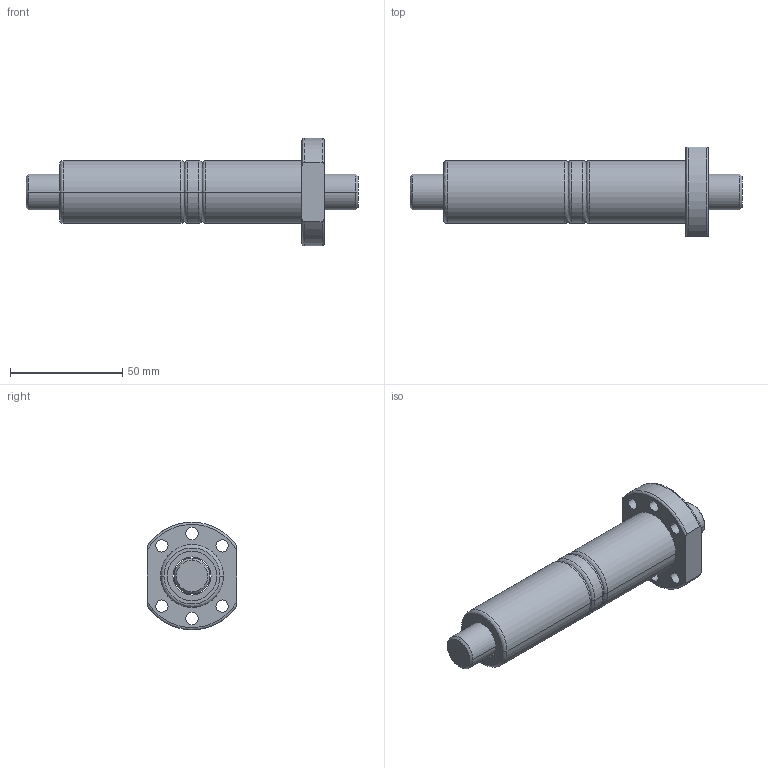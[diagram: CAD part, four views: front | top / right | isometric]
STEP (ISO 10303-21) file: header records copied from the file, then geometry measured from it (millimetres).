
FILE_DESCRIPTION (( 'STEP AP203' ), '1' );
FILE_NAME ('DFU01610.STEP', '2013-01-21T07:20:30', ( 'Halezer' ), ( '' ), 'SwSTEP 2.0', 'SolidWorks 2010', '' );
FILE_SCHEMA (( 'CONFIG_CONTROL_DESIGN' ));
Length unit declared in the file: millimetre
Products named in the file (1): DFU01610
Bounding box: 148 x 40 x 48 mm (x, y, z)
Volume: 84412.1 mm3; surface area: 31727.5 mm2
Topology: 6 solids, 6 shells, 75 faces, 168 edges, 108 vertices
Faces by surface type: cylinder 40, plane 17, bspline 14, cone 4
Entity records: 2595 total; most frequent: CARTESIAN_POINT 826, DIRECTION 366, ORIENTED_EDGE 336, EDGE_CURVE 168, AXIS2_PLACEMENT_3D 158, VERTEX_POINT 108, EDGE_LOOP 100, CIRCLE 96
